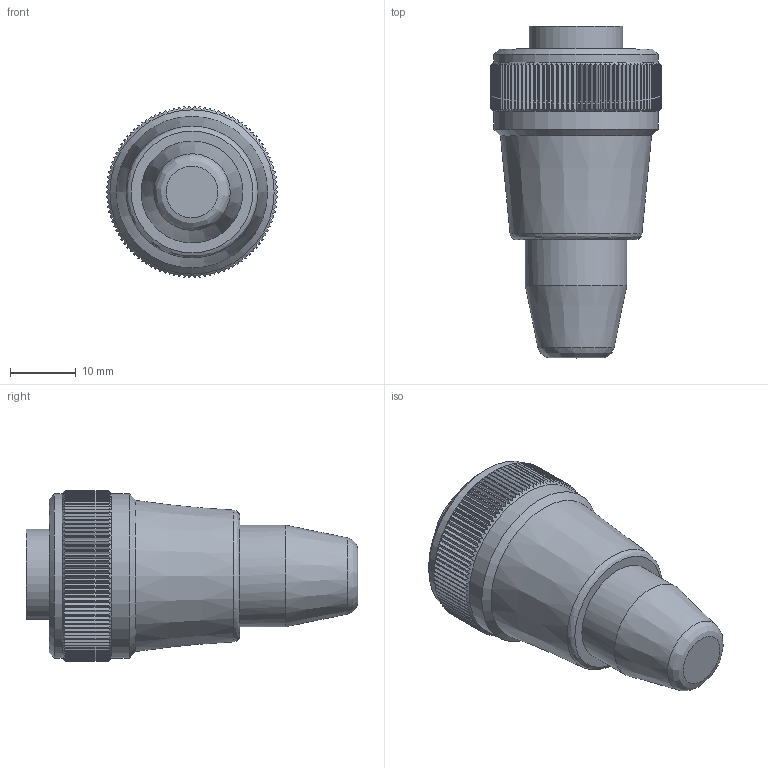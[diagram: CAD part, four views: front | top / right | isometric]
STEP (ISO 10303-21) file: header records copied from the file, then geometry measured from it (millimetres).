
FILE_DESCRIPTION (( 'STEP AP203' ), '1' );
FILE_NAME ('RKM-18AWG.step', '2019-08-05T20:14:47', ( '' ), ( '' ), 'SwSTEP 2.0', 'SolidWorks 2017', '' );
FILE_SCHEMA (( 'CONFIG_CONTROL_DESIGN' ));
Length unit declared in the file: millimetre
Products named in the file (1): RKM-18AWG
Bounding box: 26 x 50.5 x 25.99 mm (x, y, z)
Volume: 14704.4 mm3; surface area: 4897.7 mm2
Topology: 1 solids, 1 shells, 344 faces, 1009 edges, 672 vertices
Faces by surface type: plane 222, cylinder 113, cone 7, bspline 2
Full cylindrical faces by diameter (mm): 15.49 x1, 18 x1, 20.5 x1, 22.5 x1, 25 x2
Entity records: 11803 total; most frequent: CARTESIAN_POINT 3325, ORIENTED_EDGE 1970, DIRECTION 1478, EDGE_CURVE 985, VERTEX_POINT 663, AXIS2_PLACEMENT_3D 575, B_SPLINE_CURVE_WITH_KNOTS 424, EDGE_LOOP 364
